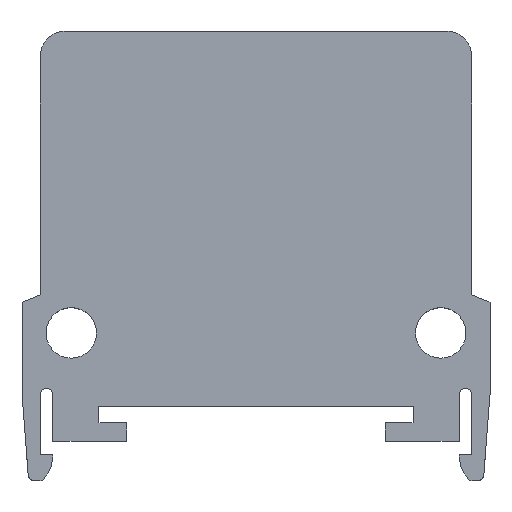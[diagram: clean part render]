
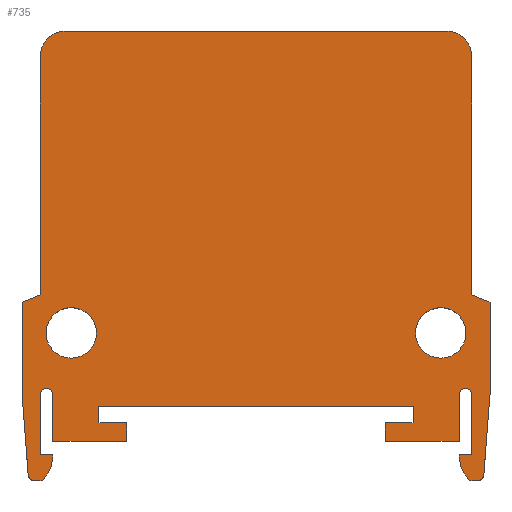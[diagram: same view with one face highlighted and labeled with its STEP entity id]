
A CAD part, top view. The second image highlights one B-rep face of the part: STEP entity #735.
In plain terms, the highlighted planar face has unit normal (0, 0, 1).
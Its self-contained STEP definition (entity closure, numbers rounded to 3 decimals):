
#17=FACE_BOUND('',#96,.T.);
#18=FACE_BOUND('',#97,.T.);
#20=CIRCLE('',#794,0.5);
#22=CIRCLE('',#798,0.5);
#31=CIRCLE('',#809,2.);
#32=CIRCLE('',#810,2.);
#33=CIRCLE('',#811,0.5);
#34=CIRCLE('',#812,3.);
#35=CIRCLE('',#813,3.);
#36=CIRCLE('',#814,0.5);
#37=CIRCLE('',#815,2.05);
#38=CIRCLE('',#816,2.05);
#55=FACE_OUTER_BOUND('',#95,.T.);
#95=EDGE_LOOP('',(#541,#542,#543,#544,#545,#546,#547,#548,#549,#550,#551,
#552,#553,#554,#555,#556,#557,#558,#559,#560,#561,#562,#563,#564,#565,#566,
#567,#568,#569,#570,#571,#572,#573,#574));
#96=EDGE_LOOP('',(#575));
#97=EDGE_LOOP('',(#576));
#132=LINE('',#1063,#220);
#136=LINE('',#1072,#224);
#141=LINE('',#1087,#229);
#166=LINE('',#1157,#254);
#167=LINE('',#1161,#255);
#168=LINE('',#1164,#256);
#169=LINE('',#1166,#257);
#170=LINE('',#1168,#258);
#171=LINE('',#1172,#259);
#172=LINE('',#1176,#260);
#173=LINE('',#1177,#261);
#174=LINE('',#1179,#262);
#175=LINE('',#1181,#263);
#176=LINE('',#1183,#264);
#177=LINE('',#1185,#265);
#178=LINE('',#1187,#266);
#179=LINE('',#1189,#267);
#180=LINE('',#1191,#268);
#181=LINE('',#1193,#269);
#182=LINE('',#1195,#270);
#183=LINE('',#1196,#271);
#184=LINE('',#1198,#272);
#185=LINE('',#1202,#273);
#186=LINE('',#1206,#274);
#187=LINE('',#1208,#275);
#188=LINE('',#1209,#276);
#220=VECTOR('',#855,10.);
#224=VECTOR('',#861,10.);
#229=VECTOR('',#874,10.);
#254=VECTOR('',#925,10.);
#255=VECTOR('',#928,10.);
#256=VECTOR('',#931,10.);
#257=VECTOR('',#932,10.);
#258=VECTOR('',#933,10.);
#259=VECTOR('',#936,10.);
#260=VECTOR('',#939,10.);
#261=VECTOR('',#940,10.);
#262=VECTOR('',#941,10.);
#263=VECTOR('',#942,10.);
#264=VECTOR('',#943,10.);
#265=VECTOR('',#944,10.);
#266=VECTOR('',#945,10.);
#267=VECTOR('',#946,10.);
#268=VECTOR('',#947,10.);
#269=VECTOR('',#948,10.);
#270=VECTOR('',#949,10.);
#271=VECTOR('',#950,10.);
#272=VECTOR('',#951,10.);
#273=VECTOR('',#954,10.);
#274=VECTOR('',#957,10.);
#275=VECTOR('',#958,10.);
#276=VECTOR('',#959,10.);
#306=VERTEX_POINT('',#1057);
#308=VERTEX_POINT('',#1061);
#310=VERTEX_POINT('',#1066);
#312=VERTEX_POINT('',#1070);
#314=VERTEX_POINT('',#1076);
#316=VERTEX_POINT('',#1081);
#318=VERTEX_POINT('',#1085);
#320=VERTEX_POINT('',#1091);
#349=VERTEX_POINT('',#1155);
#350=VERTEX_POINT('',#1156);
#351=VERTEX_POINT('',#1158);
#352=VERTEX_POINT('',#1160);
#353=VERTEX_POINT('',#1163);
#354=VERTEX_POINT('',#1165);
#355=VERTEX_POINT('',#1167);
#356=VERTEX_POINT('',#1169);
#357=VERTEX_POINT('',#1171);
#358=VERTEX_POINT('',#1173);
#359=VERTEX_POINT('',#1175);
#360=VERTEX_POINT('',#1178);
#361=VERTEX_POINT('',#1180);
#362=VERTEX_POINT('',#1182);
#363=VERTEX_POINT('',#1184);
#364=VERTEX_POINT('',#1186);
#365=VERTEX_POINT('',#1188);
#366=VERTEX_POINT('',#1190);
#367=VERTEX_POINT('',#1192);
#368=VERTEX_POINT('',#1194);
#369=VERTEX_POINT('',#1197);
#370=VERTEX_POINT('',#1199);
#371=VERTEX_POINT('',#1201);
#372=VERTEX_POINT('',#1203);
#373=VERTEX_POINT('',#1205);
#374=VERTEX_POINT('',#1207);
#375=VERTEX_POINT('',#1210);
#376=VERTEX_POINT('',#1212);
#380=EDGE_CURVE('',#306,#308,#132,.T.);
#384=EDGE_CURVE('',#310,#312,#136,.T.);
#386=EDGE_CURVE('',#310,#314,#20,.T.);
#391=EDGE_CURVE('',#316,#318,#141,.T.);
#393=EDGE_CURVE('',#316,#320,#22,.T.);
#426=EDGE_CURVE('',#349,#350,#166,.T.);
#427=EDGE_CURVE('',#351,#349,#31,.T.);
#428=EDGE_CURVE('',#352,#351,#167,.T.);
#429=EDGE_CURVE('',#306,#352,#32,.T.);
#430=EDGE_CURVE('',#308,#353,#168,.T.);
#431=EDGE_CURVE('',#353,#354,#169,.T.);
#432=EDGE_CURVE('',#354,#355,#170,.T.);
#433=EDGE_CURVE('',#355,#356,#33,.T.);
#434=EDGE_CURVE('',#356,#357,#171,.T.);
#435=EDGE_CURVE('',#357,#358,#34,.T.);
#436=EDGE_CURVE('',#358,#359,#172,.T.);
#437=EDGE_CURVE('',#359,#320,#173,.T.);
#438=EDGE_CURVE('',#318,#360,#174,.T.);
#439=EDGE_CURVE('',#360,#361,#175,.T.);
#440=EDGE_CURVE('',#361,#362,#176,.T.);
#441=EDGE_CURVE('',#362,#363,#177,.T.);
#442=EDGE_CURVE('',#363,#364,#178,.T.);
#443=EDGE_CURVE('',#364,#365,#179,.T.);
#444=EDGE_CURVE('',#365,#366,#180,.T.);
#445=EDGE_CURVE('',#366,#367,#181,.T.);
#446=EDGE_CURVE('',#367,#368,#182,.T.);
#447=EDGE_CURVE('',#368,#314,#183,.T.);
#448=EDGE_CURVE('',#312,#369,#184,.T.);
#449=EDGE_CURVE('',#369,#370,#35,.T.);
#450=EDGE_CURVE('',#370,#371,#185,.T.);
#451=EDGE_CURVE('',#371,#372,#36,.T.);
#452=EDGE_CURVE('',#372,#373,#186,.T.);
#453=EDGE_CURVE('',#373,#374,#187,.T.);
#454=EDGE_CURVE('',#374,#350,#188,.T.);
#455=EDGE_CURVE('',#375,#375,#37,.T.);
#456=EDGE_CURVE('',#376,#376,#38,.T.);
#541=ORIENTED_EDGE('',*,*,#426,.F.);
#542=ORIENTED_EDGE('',*,*,#427,.F.);
#543=ORIENTED_EDGE('',*,*,#428,.F.);
#544=ORIENTED_EDGE('',*,*,#429,.F.);
#545=ORIENTED_EDGE('',*,*,#380,.T.);
#546=ORIENTED_EDGE('',*,*,#430,.T.);
#547=ORIENTED_EDGE('',*,*,#431,.T.);
#548=ORIENTED_EDGE('',*,*,#432,.T.);
#549=ORIENTED_EDGE('',*,*,#433,.T.);
#550=ORIENTED_EDGE('',*,*,#434,.T.);
#551=ORIENTED_EDGE('',*,*,#435,.T.);
#552=ORIENTED_EDGE('',*,*,#436,.T.);
#553=ORIENTED_EDGE('',*,*,#437,.T.);
#554=ORIENTED_EDGE('',*,*,#393,.F.);
#555=ORIENTED_EDGE('',*,*,#391,.T.);
#556=ORIENTED_EDGE('',*,*,#438,.T.);
#557=ORIENTED_EDGE('',*,*,#439,.T.);
#558=ORIENTED_EDGE('',*,*,#440,.T.);
#559=ORIENTED_EDGE('',*,*,#441,.T.);
#560=ORIENTED_EDGE('',*,*,#442,.T.);
#561=ORIENTED_EDGE('',*,*,#443,.T.);
#562=ORIENTED_EDGE('',*,*,#444,.T.);
#563=ORIENTED_EDGE('',*,*,#445,.T.);
#564=ORIENTED_EDGE('',*,*,#446,.T.);
#565=ORIENTED_EDGE('',*,*,#447,.T.);
#566=ORIENTED_EDGE('',*,*,#386,.F.);
#567=ORIENTED_EDGE('',*,*,#384,.T.);
#568=ORIENTED_EDGE('',*,*,#448,.T.);
#569=ORIENTED_EDGE('',*,*,#449,.T.);
#570=ORIENTED_EDGE('',*,*,#450,.T.);
#571=ORIENTED_EDGE('',*,*,#451,.T.);
#572=ORIENTED_EDGE('',*,*,#452,.T.);
#573=ORIENTED_EDGE('',*,*,#453,.T.);
#574=ORIENTED_EDGE('',*,*,#454,.T.);
#575=ORIENTED_EDGE('',*,*,#455,.F.);
#576=ORIENTED_EDGE('',*,*,#456,.F.);
#705=PLANE('',#808);
#735=ADVANCED_FACE('',(#55,#17,#18),#705,.T.);
#794=AXIS2_PLACEMENT_3D('',#1077,#866,#867);
#798=AXIS2_PLACEMENT_3D('',#1092,#879,#880);
#808=AXIS2_PLACEMENT_3D('',#1154,#923,#924);
#809=AXIS2_PLACEMENT_3D('',#1159,#926,#927);
#810=AXIS2_PLACEMENT_3D('',#1162,#929,#930);
#811=AXIS2_PLACEMENT_3D('',#1170,#934,#935);
#812=AXIS2_PLACEMENT_3D('',#1174,#937,#938);
#813=AXIS2_PLACEMENT_3D('',#1200,#952,#953);
#814=AXIS2_PLACEMENT_3D('',#1204,#955,#956);
#815=AXIS2_PLACEMENT_3D('',#1211,#960,#961);
#816=AXIS2_PLACEMENT_3D('',#1213,#962,#963);
#855=DIRECTION('',(0.,-1.,0.));
#861=DIRECTION('',(0.,-1.,0.));
#866=DIRECTION('center_axis',(0.,0.,1.));
#867=DIRECTION('ref_axis',(0.707,0.707,0.));
#874=DIRECTION('',(0.,-1.,0.));
#879=DIRECTION('center_axis',(0.,0.,1.));
#880=DIRECTION('ref_axis',(0.707,0.707,0.));
#923=DIRECTION('center_axis',(0.,0.,1.));
#924=DIRECTION('ref_axis',(1.,0.,0.));
#925=DIRECTION('',(0.,-1.,0.));
#926=DIRECTION('center_axis',(0.,0.,-1.));
#927=DIRECTION('ref_axis',(1.,0.,0.));
#928=DIRECTION('',(1.,0.,0.));
#929=DIRECTION('center_axis',(0.,0.,-1.));
#930=DIRECTION('ref_axis',(0.,1.,0.));
#931=DIRECTION('',(-0.928,-0.371,0.));
#932=DIRECTION('',(0.,-1.,0.));
#933=DIRECTION('',(0.076,-0.997,0.));
#934=DIRECTION('center_axis',(0.,0.,1.));
#935=DIRECTION('ref_axis',(-0.997,-0.076,0.));
#936=DIRECTION('',(1.,0.,0.));
#937=DIRECTION('center_axis',(0.,0.,1.));
#938=DIRECTION('ref_axis',(0.714,-0.7,0.));
#939=DIRECTION('',(-1.,0.,0.));
#940=DIRECTION('',(0.,1.,0.));
#941=DIRECTION('',(1.,0.,0.));
#942=DIRECTION('',(0.,1.,0.));
#943=DIRECTION('',(-1.,0.,0.));
#944=DIRECTION('',(0.,1.,0.));
#945=DIRECTION('',(1.,0.,0.));
#946=DIRECTION('',(0.,-1.,0.));
#947=DIRECTION('',(-1.,0.,0.));
#948=DIRECTION('',(0.,-1.,0.));
#949=DIRECTION('',(1.,0.,0.));
#950=DIRECTION('',(0.,1.,0.));
#951=DIRECTION('',(-1.,0.,0.));
#952=DIRECTION('center_axis',(0.,0.,1.));
#953=DIRECTION('ref_axis',(-1.,0.,0.));
#954=DIRECTION('',(1.,0.,0.));
#955=DIRECTION('center_axis',(0.,0.,1.));
#956=DIRECTION('ref_axis',(0.,-1.,0.));
#957=DIRECTION('',(0.076,0.997,0.));
#958=DIRECTION('',(0.,1.,0.));
#959=DIRECTION('',(-0.928,0.371,0.));
#960=DIRECTION('center_axis',(0.,0.,1.));
#961=DIRECTION('ref_axis',(-1.,0.,0.));
#962=DIRECTION('center_axis',(0.,0.,1.));
#963=DIRECTION('ref_axis',(-1.,0.,0.));
#1057=CARTESIAN_POINT('',(-17.5,22.5,5.));
#1061=CARTESIAN_POINT('',(-17.5,3.1,5.));
#1063=CARTESIAN_POINT('',(-17.5,24.5,5.));
#1066=CARTESIAN_POINT('',(17.5,-5.,5.));
#1070=CARTESIAN_POINT('',(17.5,-9.9,5.));
#1072=CARTESIAN_POINT('',(17.5,-4.5,5.));
#1076=CARTESIAN_POINT('',(16.5,-5.,5.));
#1077=CARTESIAN_POINT('Origin',(17.,-5.,5.));
#1081=CARTESIAN_POINT('',(-16.5,-5.,5.));
#1085=CARTESIAN_POINT('',(-16.5,-8.8,5.));
#1087=CARTESIAN_POINT('',(-16.5,-4.5,5.));
#1091=CARTESIAN_POINT('',(-17.5,-5.,5.));
#1092=CARTESIAN_POINT('Origin',(-17.,-5.,5.));
#1154=CARTESIAN_POINT('Origin',(0.,6.25,5.));
#1155=CARTESIAN_POINT('',(17.5,22.5,5.));
#1156=CARTESIAN_POINT('',(17.5,3.1,5.));
#1157=CARTESIAN_POINT('',(17.5,12.863,5.));
#1158=CARTESIAN_POINT('',(15.5,24.5,5.));
#1159=CARTESIAN_POINT('Origin',(15.5,22.5,5.));
#1160=CARTESIAN_POINT('',(-15.5,24.5,5.));
#1161=CARTESIAN_POINT('',(7.75,24.5,5.));
#1162=CARTESIAN_POINT('Origin',(-15.5,22.5,5.));
#1163=CARTESIAN_POINT('',(-19.,2.5,5.));
#1164=CARTESIAN_POINT('',(-17.5,3.1,5.));
#1165=CARTESIAN_POINT('',(-19.,-5.,5.));
#1166=CARTESIAN_POINT('',(-19.,2.5,5.));
#1167=CARTESIAN_POINT('',(-18.499,-11.538,5.));
#1168=CARTESIAN_POINT('',(-19.,-5.,5.));
#1169=CARTESIAN_POINT('',(-18.,-12.,5.));
#1170=CARTESIAN_POINT('Origin',(-18.,-11.5,5.));
#1171=CARTESIAN_POINT('',(-17.358,-12.,5.));
#1172=CARTESIAN_POINT('',(-18.,-12.,5.));
#1173=CARTESIAN_POINT('',(-16.5,-9.9,5.));
#1174=CARTESIAN_POINT('Origin',(-19.5,-9.9,5.));
#1175=CARTESIAN_POINT('',(-17.5,-9.9,5.));
#1176=CARTESIAN_POINT('',(-16.5,-9.9,5.));
#1177=CARTESIAN_POINT('',(-17.5,-9.9,5.));
#1178=CARTESIAN_POINT('',(-10.5,-8.8,5.));
#1179=CARTESIAN_POINT('',(-16.5,-8.8,5.));
#1180=CARTESIAN_POINT('',(-10.5,-7.3,5.));
#1181=CARTESIAN_POINT('',(-10.5,-8.8,5.));
#1182=CARTESIAN_POINT('',(-12.75,-7.3,5.));
#1183=CARTESIAN_POINT('',(-10.5,-7.3,5.));
#1184=CARTESIAN_POINT('',(-12.75,-6.,5.));
#1185=CARTESIAN_POINT('',(-12.75,-7.3,5.));
#1186=CARTESIAN_POINT('',(12.75,-6.,5.));
#1187=CARTESIAN_POINT('',(-12.75,-6.,5.));
#1188=CARTESIAN_POINT('',(12.75,-7.3,5.));
#1189=CARTESIAN_POINT('',(12.75,-6.,5.));
#1190=CARTESIAN_POINT('',(10.5,-7.3,5.));
#1191=CARTESIAN_POINT('',(12.75,-7.3,5.));
#1192=CARTESIAN_POINT('',(10.5,-8.8,5.));
#1193=CARTESIAN_POINT('',(10.5,-7.3,5.));
#1194=CARTESIAN_POINT('',(16.5,-8.8,5.));
#1195=CARTESIAN_POINT('',(10.5,-8.8,5.));
#1196=CARTESIAN_POINT('',(16.5,-8.8,5.));
#1197=CARTESIAN_POINT('',(16.5,-9.9,5.));
#1198=CARTESIAN_POINT('',(17.5,-9.9,5.));
#1199=CARTESIAN_POINT('',(17.358,-12.,5.));
#1200=CARTESIAN_POINT('Origin',(19.5,-9.9,5.));
#1201=CARTESIAN_POINT('',(18.,-12.,5.));
#1202=CARTESIAN_POINT('',(17.358,-12.,5.));
#1203=CARTESIAN_POINT('',(18.499,-11.538,5.));
#1204=CARTESIAN_POINT('Origin',(18.,-11.5,5.));
#1205=CARTESIAN_POINT('',(19.,-5.,5.));
#1206=CARTESIAN_POINT('',(18.499,-11.538,5.));
#1207=CARTESIAN_POINT('',(19.,2.5,5.));
#1208=CARTESIAN_POINT('',(19.,-5.,5.));
#1209=CARTESIAN_POINT('',(19.,2.5,5.));
#1210=CARTESIAN_POINT('',(-12.95,0.,5.));
#1211=CARTESIAN_POINT('Origin',(-15.,0.,5.));
#1212=CARTESIAN_POINT('',(17.05,0.,5.));
#1213=CARTESIAN_POINT('Origin',(15.,0.,5.));
